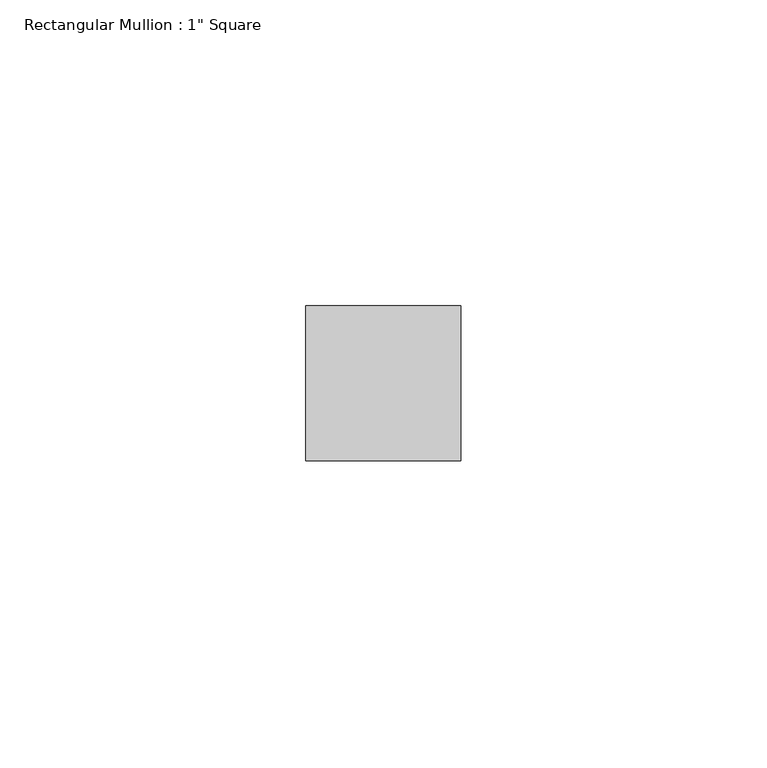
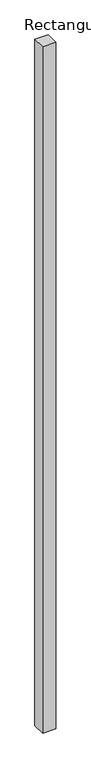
"""IFC4 building model written with IfcOpenShell, lengths in millimetres: member geometry."""

from ifc_helpers import new_model, si_unit, frame, origin, place, context, project, spatial, polyline, outline, extrude, source, transform, mapped, element, save


def member_5080b2ef(model_context):
    return source(origin(), model_context, "Body", "SweptSolid", [
        extrude(outline(polyline([(0.0, 12.7), (0.0, -12.7), (-25.4, -12.7), (-25.4, 12.7), (0.0, 12.7)])), frame((0.0, 0.0, -1397.218807), z_axis=(0.0, 0.0, 1.0), x_axis=(1.0, 0.0, 0.0)), (0.0, 0.0, 1.0), 1397.218807),
    ])


if __name__ == "__main__":
    model = new_model("IFC4")
    model_context = context("Model", 3, world=origin())
    ifc_project = project(units=[si_unit("LENGTHUNIT", "METRE", prefix="MILLI")], contexts=[model_context])
    site = spatial("IfcSite", under=ifc_project)
    building = spatial("IfcBuilding", under=site)
    placement = place(None, origin())
    member_shape = member_5080b2ef(model_context)
    element("IfcMember", 1, ObjectType="Rectangular Mullion : 1\" Square", at=placement, inside=building, context=model_context, shape_type="MappedRepresentation", body=[
        mapped(member_shape, transform((0.0, 0.0, 0.0), x_axis=(1.0, 0.0, 0.0), y_axis=(0.0, 1.0, 0.0), z_axis=(0.0, 0.0, 1.0))),
    ])
    save(model, "model.ifc")
